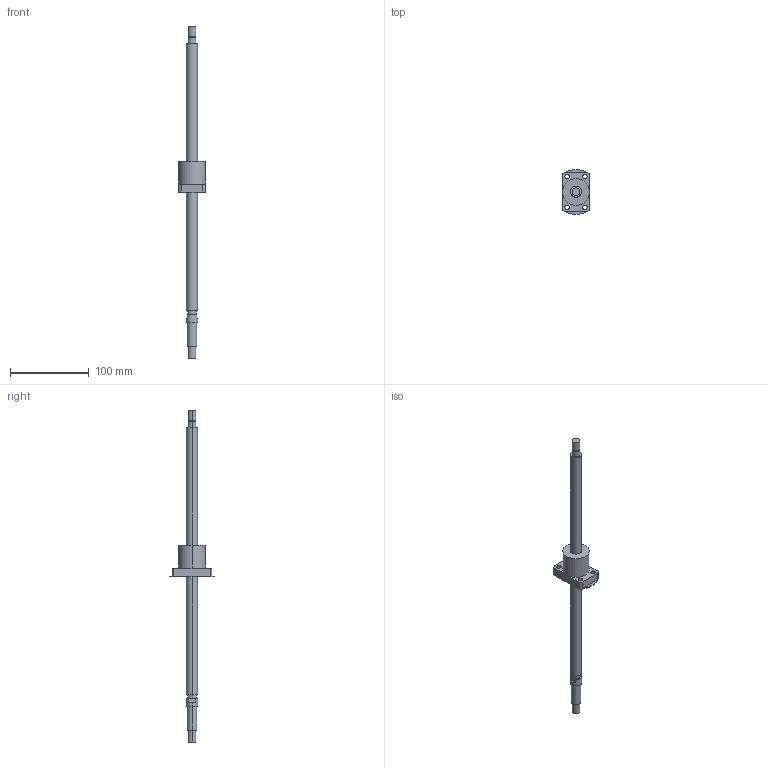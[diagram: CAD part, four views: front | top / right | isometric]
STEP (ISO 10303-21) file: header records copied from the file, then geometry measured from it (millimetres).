
FILE_DESCRIPTION((''),'2;1');
FILE_NAME('R14-5B1-FSW-339-421','2008-03-28T',('mahdi'),(''),'PRO/ENGINEER BY PARAMETRIC TECHNOLOGY CORPORATION, 2005070','PRO/ENGINEER BY PARAMETRIC TECHNOLOGY CORPORATION, 2005070','');
FILE_SCHEMA(('CONFIG_CONTROL_DESIGN'));
Length unit declared in the file: millimetre
Products named in the file (1): R14-5B1-FSW-339-421
Bounding box: 34 x 57 x 421 mm (x, y, z)
Volume: 97357.2 mm3; surface area: 25625.5 mm2
Topology: 1 solids, 1 shells, 65 faces, 146 edges, 96 vertices
Faces by surface type: cylinder 38, plane 27
Entity records: 1906 total; most frequent: DIRECTION 360, CARTESIAN_POINT 307, ORIENTED_EDGE 292, AXIS2_PLACEMENT_3D 149, EDGE_CURVE 146, VERTEX_POINT 96, EDGE_LOOP 86, CIRCLE 84
